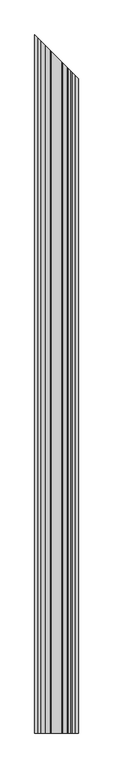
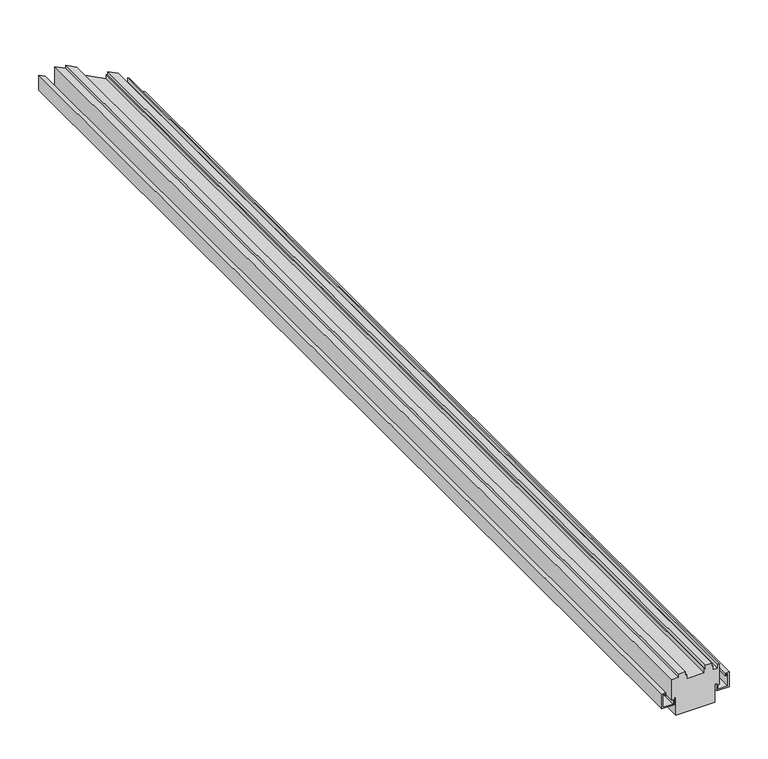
"""IFC4 building model written with IfcOpenShell, lengths in millimetres: proxy geometry, Mullion-Ceiling_Top_Spacer-Teknion-OptoLP-45º_Corner : FZFP and FYFC."""

from ifc_helpers import new_model, si_unit, origin, place, context, project, spatial, faceted_brep, source, transform, mapped, element, save


def specialty_equipment_ea2fe624(model_context):
    return source(origin(), model_context, "Body", "Brep", [
        faceted_brep([(-28.9941, -1472.885056, 27.9908004), (-28.9941, -1472.885056, 0.0), (28.9941, -1472.885056, 0.0), (28.9941, -1472.885056, 27.9908004), (31.457901, -1472.885056, 27.9908004), (31.457901, -1472.885056, 17.1703999), (50.038, -1472.885056, 17.1703999), (50.038, -1472.885056, 40.4114006), (44.030901, -1472.885056, 40.4114006), (44.030901, -1472.885056, 35.9663992), (45.6819013, -1472.885056, 35.9663992), (45.6819013, -1472.885056, 38.7604004), (48.3488999, -1472.885056, 38.7604004), (48.3488999, -1472.885056, 18.8214002), (33.1089012, -1472.885056, 18.8214002), (33.1089012, -1472.885056, 25.8064), (35.1409018, -1472.885056, 25.8064), (35.1409018, -1472.885056, 57.8319226), (33.4899016, -1472.885056, 57.8319226), (33.4899016, -1472.885056, 51.4630966), (26.1620004, -1472.885056, 51.4630966), (26.1620004, -1472.885056, 57.8103988), (24.6323263, -1472.885056, 57.8103988), (24.6323263, -1472.885056, 62.608161), (14.6111051, -1472.885056, 62.608161), (14.6111051, -1472.885056, 57.8103988), (13.0810002, -1472.885056, 57.8103988), (13.0810002, -1472.885056, 51.4603993), (-13.0810002, -1472.885056, 51.4603993), (-13.0810002, -1472.885056, 57.8319226), (-14.6103429, -1472.885056, 57.8319226), (-14.6103429, -1472.885056, 62.608161), (-24.6315641, -1472.885056, 62.608161), (-24.6315641, -1472.885056, 57.8103988), (-35.1409018, -1472.885056, 57.8103988), (-35.1409018, -1472.885056, 25.8064), (-33.1089012, -1472.885056, 25.8064), (-33.1089012, -1472.885056, 18.8214002), (-48.3488999, -1472.885056, 18.8214002), (-48.3488999, -1472.885056, 38.7604004), (-45.6819013, -1472.885056, 38.7604004), (-45.6819013, -1472.885056, 35.9663992), (-44.030901, -1472.885056, 35.9663992), (-44.030901, -1472.885056, 40.4114006), (-50.038, -1472.885056, 40.4114006), (-50.038, -1472.885056, 17.1703999), (-31.457901, -1472.885056, 17.1703999), (-31.457901, -1472.885056, 27.9908004), (-28.9941, 105.9561, 27.9908004), (-28.9941, 105.9561, 0.0), (28.9941, 47.9679, 0.0), (28.9941, 47.9679, 27.9908004), (31.457901, 45.504099, 27.9908004), (31.457901, 45.504099, 17.1703999), (50.038, 26.924, 17.1703999), (50.038, 26.924, 40.4114006), (44.030901, 32.931099, 40.4114006), (44.030901, 32.931099, 35.9663992), (45.6819013, 31.2800987, 35.9663992), (45.6819013, 31.2800987, 38.7604004), (48.3488999, 28.6131001, 38.7604004), (48.3488999, 28.6131001, 18.8214002), (33.1089012, 43.8530988, 18.8214002), (33.1089012, 43.8530988, 25.8064), (35.1409018, 41.8210982, 25.8064), (35.1409018, 41.8210982, 57.8319226), (33.4899016, 43.4720984, 57.8319226), (33.4899016, 43.4720984, 51.4630966), (26.1620004, 50.7999996, 51.4630966), (26.1620004, 50.7999996, 57.8103988), (24.6323263, 52.3296737, 57.8103988), (24.6323263, 52.3296737, 62.608161), (14.6111051, 62.3508949, 62.608161), (14.6111051, 62.3508949, 57.8103988), (13.0810002, 63.8809998, 57.8103988), (13.0810002, 63.8809998, 51.4603993), (-13.0810002, 90.0430002, 51.4603993), (-13.0810002, 90.0430002, 57.8319226), (-14.6103429, 91.5723429, 57.8319226), (-14.6103429, 91.5723429, 62.608161), (-24.6315641, 101.5935641, 62.608161), (-24.6315641, 101.5935641, 57.8103988), (-35.1409018, 112.1029018, 57.8103988), (-35.1409018, 112.1029018, 25.8064), (-33.1089012, 110.0709012, 25.8064), (-33.1089012, 110.0709012, 18.8214002), (-48.3488999, 125.3108999, 18.8214002), (-48.3488999, 125.3108999, 38.7604004), (-45.6819013, 122.6439013, 38.7604004), (-45.6819013, 122.6439013, 35.9663992), (-44.030901, 120.992901, 35.9663992), (-44.030901, 120.992901, 40.4114006), (-50.038, 127.0, 40.4114006), (-50.038, 127.0, 17.1703999), (-31.457901, 108.419901, 17.1703999), (-31.457901, 108.419901, 27.9908004)], [[[0, 1, 2, 3, 4, 5, 6, 7, 8, 9, 10, 11, 12, 13, 14, 15, 16, 17, 18, 19, 20, 21, 22, 23, 24, 25, 26, 27, 28, 29, 30, 31, 32, 33, 34, 35, 36, 37, 38, 39, 40, 41, 42, 43, 44, 45, 46, 47]], [[0, 48, 49, 1]], [[1, 49, 50, 2]], [[2, 50, 51, 3]], [[3, 51, 52, 4]], [[4, 52, 53, 5]], [[5, 53, 54, 6]], [[6, 54, 55, 7]], [[7, 55, 56, 8]], [[8, 56, 57, 9]], [[9, 57, 58, 10]], [[10, 58, 59, 11]], [[11, 59, 60, 12]], [[12, 60, 61, 13]], [[13, 61, 62, 14]], [[14, 62, 63, 15]], [[15, 63, 64, 16]], [[16, 64, 65, 17]], [[17, 65, 66, 18]], [[18, 66, 67, 19]], [[19, 67, 68, 20]], [[20, 68, 69, 21]], [[21, 69, 70, 22]], [[22, 70, 71, 23]], [[23, 71, 72, 24]], [[24, 72, 73, 25]], [[25, 73, 74, 26]], [[26, 74, 75, 27]], [[27, 75, 76, 28]], [[28, 76, 77, 29]], [[29, 77, 78, 30]], [[30, 78, 79, 31]], [[31, 79, 80, 32]], [[32, 80, 81, 33]], [[33, 81, 82, 34]], [[34, 82, 83, 35]], [[35, 83, 84, 36]], [[36, 84, 85, 37]], [[37, 85, 86, 38]], [[38, 86, 87, 39]], [[39, 87, 88, 40]], [[40, 88, 89, 41]], [[41, 89, 90, 42]], [[42, 90, 91, 43]], [[43, 91, 92, 44]], [[44, 92, 93, 45]], [[45, 93, 94, 46]], [[46, 94, 95, 47]], [[47, 95, 48, 0]], [[48, 95, 94, 93, 92, 91, 90, 89, 88, 87, 86, 85, 84, 83, 82, 81, 80, 79, 78, 77, 76, 75, 74, 73, 72, 71, 70, 69, 68, 67, 66, 65, 64, 63, 62, 61, 60, 59, 58, 57, 56, 55, 54, 53, 52, 51, 50, 49]]]),
    ])


if __name__ == "__main__":
    model = new_model("IFC4")
    model_context = context("Model", 3, world=origin())
    ifc_project = project(units=[si_unit("LENGTHUNIT", "METRE", prefix="MILLI")], contexts=[model_context])
    site = spatial("IfcSite", under=ifc_project)
    building = spatial("IfcBuilding", under=site)
    placement = place(None, origin())
    specialty_equipment_shape = specialty_equipment_ea2fe624(model_context)
    element("IfcBuildingElementProxy", 1, Name="Mullion-Ceiling_Top_Spacer-Teknion-OptoLP-45º_Corner : FZFP and FYFC", ObjectType="Mullion-Ceiling_Top_Spacer-Teknion-OptoLP-45º_Corner : FZFP and FYFC", at=placement, inside=building, context=model_context, shape_type="MappedRepresentation", body=[
        mapped(specialty_equipment_shape, transform((0.0, 0.0, 0.0), x_axis=(1.0, 0.0, 0.0), y_axis=(0.0, 1.0, 0.0), z_axis=(0.0, 0.0, 1.0))),
    ])
    save(model, "model.ifc")
